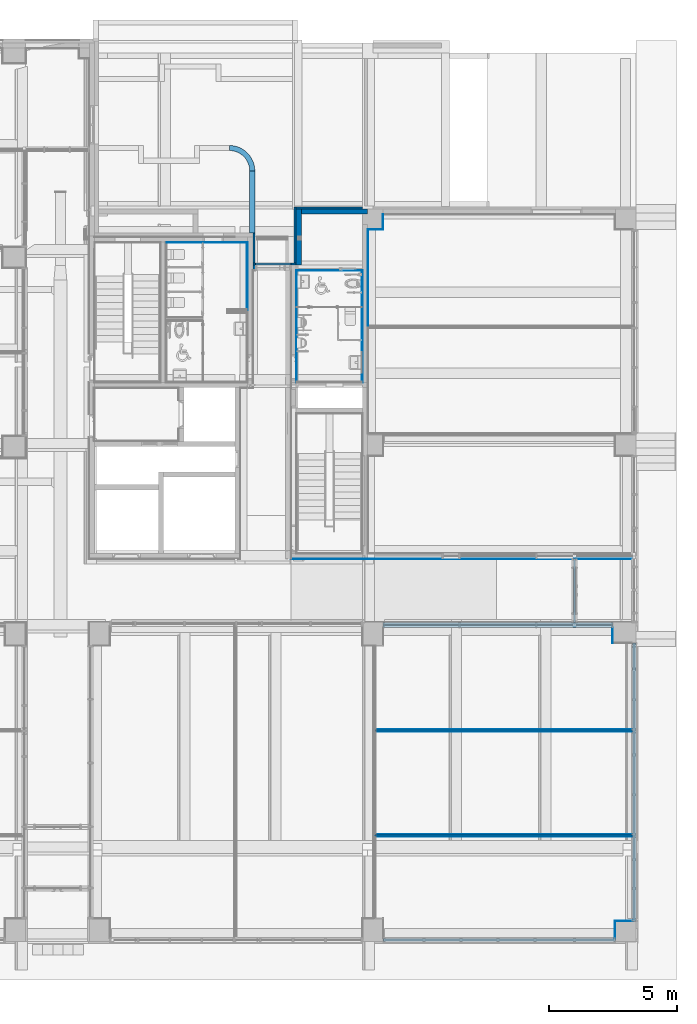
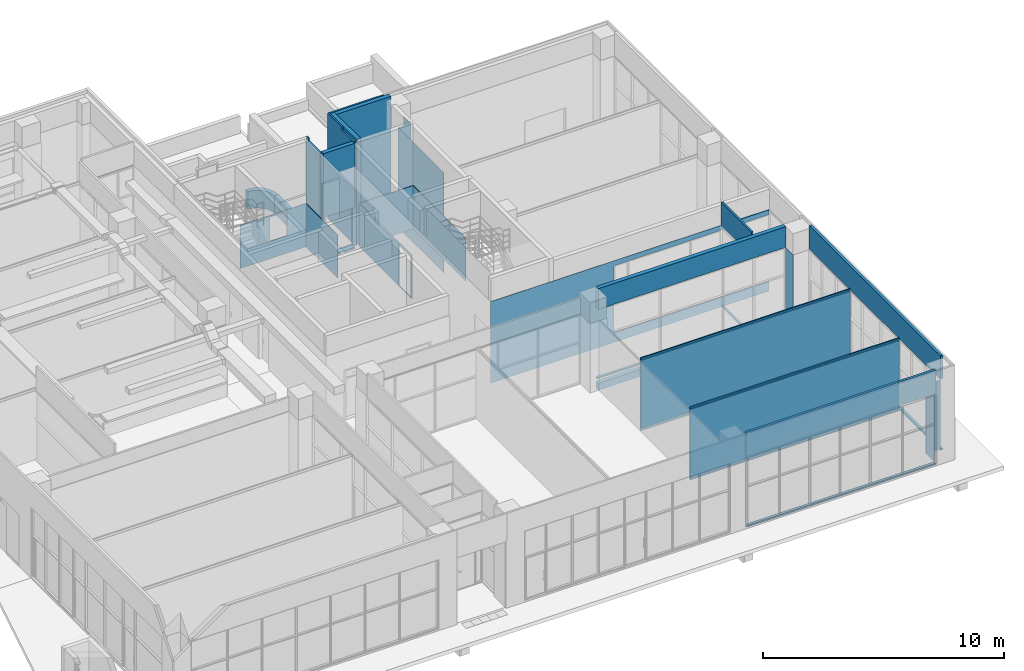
# One storey, part 51 of 100: 31 walls, 10 openings.
"""IFC2X3 building model written with IfcOpenShell, lengths in millimetres."""

from ifc_helpers import new_model, entity, si_unit, converted_unit, derived_unit, direction, frame, frame_2d, origin, origin_2d_with_axis, place, context, subcontext, project, spatial, polyline, circle_curve, parameter, trimmed, segment, composite_curve, rectangle, outline, extrude, clip, bounded_halfspace, material, layer, layer_set, layer_usage, type_object, element, save


model = new_model("IFC2X3")

# Units and contexts
model_context = context("Model", 3, precision=0.01, world=origin(), true_north=direction((6.123031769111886e-17, 1.0)))
body_context = subcontext(model_context, "Body", "Model", "MODEL_VIEW")
ifc_project = project(units=[si_unit("LENGTHUNIT", "METRE", prefix="MILLI"), si_unit("AREAUNIT", "SQUARE_METRE"), si_unit("VOLUMEUNIT", "CUBIC_METRE"), converted_unit("PLANEANGLEUNIT", "DEGREE", entity("IfcRatioMeasure", 0.017453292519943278), si_unit("PLANEANGLEUNIT", "RADIAN"), dimensions=[0, 0, 0, 0, 0, 0, 0]), si_unit("MASSUNIT", "GRAM", prefix="KILO"), derived_unit("MASSDENSITYUNIT", [(si_unit("MASSUNIT", "GRAM", prefix="KILO"), 1), (si_unit("LENGTHUNIT", "METRE"), -3)]), derived_unit("MOMENTOFINERTIAUNIT", [(si_unit("LENGTHUNIT", "METRE"), 4)]), si_unit("TIMEUNIT", "SECOND"), si_unit("FREQUENCYUNIT", "HERTZ"), si_unit("THERMODYNAMICTEMPERATUREUNIT", "DEGREE_CELSIUS"), derived_unit("THERMALTRANSMITTANCEUNIT", [(si_unit("MASSUNIT", "GRAM", prefix="KILO"), 1), (si_unit("THERMODYNAMICTEMPERATUREUNIT", "KELVIN"), -1), (si_unit("TIMEUNIT", "SECOND"), -3)]), derived_unit("VOLUMETRICFLOWRATEUNIT", [(si_unit("LENGTHUNIT", "METRE"), 3), (si_unit("TIMEUNIT", "SECOND"), -1)]), derived_unit("MASSFLOWRATEUNIT", [(si_unit("MASSUNIT", "GRAM", prefix="KILO"), 1), (si_unit("TIMEUNIT", "SECOND"), -1)]), derived_unit("ROTATIONALFREQUENCYUNIT", [(si_unit("TIMEUNIT", "SECOND"), -1)]), si_unit("ELECTRICCURRENTUNIT", "AMPERE"), si_unit("ELECTRICVOLTAGEUNIT", "VOLT"), si_unit("POWERUNIT", "WATT"), si_unit("FORCEUNIT", "NEWTON", prefix="KILO"), si_unit("ILLUMINANCEUNIT", "LUX"), si_unit("LUMINOUSFLUXUNIT", "LUMEN"), si_unit("LUMINOUSINTENSITYUNIT", "CANDELA"), derived_unit("USERDEFINED", [(si_unit("MASSUNIT", "GRAM", prefix="KILO"), -1), (si_unit("LENGTHUNIT", "METRE"), -2), (si_unit("TIMEUNIT", "SECOND"), 3), (si_unit("LUMINOUSFLUXUNIT", "LUMEN"), 1)]), derived_unit("SOUNDPOWERUNIT", [(si_unit("MASSUNIT", "GRAM", prefix="KILO"), 1), (si_unit("LENGTHUNIT", "METRE"), 2), (si_unit("TIMEUNIT", "SECOND"), -3)]), derived_unit("SOUNDPRESSUREUNIT", [(si_unit("MASSUNIT", "GRAM", prefix="KILO"), 1), (si_unit("LENGTHUNIT", "METRE"), -1), (si_unit("TIMEUNIT", "SECOND"), -2)]), derived_unit("LINEARVELOCITYUNIT", [(si_unit("LENGTHUNIT", "METRE"), 1), (si_unit("TIMEUNIT", "SECOND"), -1)]), si_unit("PRESSUREUNIT", "PASCAL"), derived_unit("USERDEFINED", [(si_unit("LENGTHUNIT", "METRE"), -2), (si_unit("MASSUNIT", "GRAM", prefix="KILO"), 1), (si_unit("TIMEUNIT", "SECOND"), -2)]), derived_unit("LINEARFORCEUNIT", [(si_unit("MASSUNIT", "GRAM", prefix="KILO"), 1), (si_unit("LENGTHUNIT", "METRE"), 1), (si_unit("TIMEUNIT", "SECOND"), -2), (si_unit("LENGTHUNIT", "METRE"), -1)]), derived_unit("PLANARFORCEUNIT", [(si_unit("MASSUNIT", "GRAM", prefix="KILO"), 1), (si_unit("LENGTHUNIT", "METRE"), 1), (si_unit("TIMEUNIT", "SECOND"), -2), (si_unit("LENGTHUNIT", "METRE"), -2)])], contexts=[model_context])

# Site, building, storey
site_placement = place(None, frame((-14167.972527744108, -657.2125860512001, 0.0)))
site = spatial("IfcSite", under=ifc_project, at=site_placement, Name="Default", CompositionType="ELEMENT")
building_placement = place(site_placement, origin())
building = spatial("IfcBuilding", under=site, at=building_placement, Name="Sample Building", CompositionType="ELEMENT")
storey_placement = place(building_placement, origin())
storey = spatial("IfcBuildingStorey", under=building, at=storey_placement, Name="지상 1층", CompositionType="ELEMENT", Elevation=0.0)

# Walls
ifc_material_1 = material(Name="KBIMS-콘크리트")
ifc_layer_1 = layer(ifc_material_1, 200.0)
ifc_layer_set_1 = layer_set([ifc_layer_1], Name="기본 벽:WA111-철근콘크리트구조 벽 200mm_CW1")
ifc_layer_usage_1 = layer_usage(ifc_layer_set_1, "AXIS2", "NEGATIVE", 100.0)
wall_type_1 = type_object("IfcWallType", Name="기본 벽:WA111-철근콘크리트구조 벽 200mm_CW1", PredefinedType="STANDARD", material=ifc_layer_set_1)
wall_1_placement = place(storey_placement, frame((38267.97249112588, 27057.21229514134, -550.0), z_axis=(0.0, 0.0, 1.0), x_axis=(0.0, 1.0, 0.0)))
element("IfcWallStandardCase", 1, at=wall_1_placement, inside=storey, type_object=wall_type_1, material=ifc_layer_usage_1, Name="기본 벽:WA111-철근콘크리트구조 벽 200mm_CW1", ObjectType="기본 벽:WA111-철근콘크리트구조 벽 200mm_CW1", context=body_context, shape_type="SweptSolid", body=[
    extrude(rectangle(XDim=2200.000012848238, YDim=200.00000000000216, at=frame_2d((1100.000006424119, -2.1671553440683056e-12), x_axis=(-1.0, 0.0))), origin(), (0.0, 0.0, 1.0), 5350.000000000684),
])
ifc_layer_usage_2 = layer_usage(ifc_layer_set_1, "AXIS2", "NEGATIVE", 100.0)
wall_2_placement = place(storey_placement, frame((38367.97249112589, 29157.21230798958, -550.0)))
element("IfcWallStandardCase", 2, at=wall_2_placement, inside=storey, type_object=wall_type_1, material=ifc_layer_usage_2, Name="기본 벽:WA111-철근콘크리트구조 벽 200mm_CW1", ObjectType="기본 벽:WA111-철근콘크리트구조 벽 200mm_CW1", context=body_context, shape_type="SweptSolid", body=[
    extrude(rectangle(XDim=2599.99130702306, YDim=199.99999999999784, at=frame_2d((1299.99565351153, 0.0), x_axis=(-1.0, 0.0))), origin(), (0.0, 0.0, 1.0), 5350.000000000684),
])
ifc_layer_usage_3 = layer_usage(ifc_layer_set_1, "AXIS2", "NEGATIVE", 100.0)
wall_3_placement = place(storey_placement, frame((36447.963798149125, 30742.5429300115, -550.0), z_axis=(0.0, 0.0, 1.0), x_axis=(0.0, -1.0, 0.0)))
element("IfcWallStandardCase", 3, at=wall_3_placement, inside=storey, type_object=wall_type_1, material=ifc_layer_usage_3, Name="기본 벽:WA111-철근콘크리트구조 벽 200mm_CW1", ObjectType="기본 벽:WA111-철근콘크리트구조 벽 200mm_CW1", context=body_context, shape_type="SweptSolid", body=[
    extrude(rectangle(XDim=2435.3306220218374, YDim=200.00000000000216, at=frame_2d((1217.6653110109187, -2.1671553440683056e-12), x_axis=(-1.0, 0.0))), origin(), (0.0, 0.0, 1.0), 900.0000000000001),
])
ifc_layer_usage_4 = layer_usage(ifc_layer_set_1, "AXIS2", "POSITIVE", -100.0)
wall_4_placement = place(storey_placement, frame((35547.96379814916, 31642.5429300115, -550.0), z_axis=(0.0, 0.0, 1.0), x_axis=(0.0, 1.0, 0.0)))
element("IfcWallStandardCase", 4, at=wall_4_placement, inside=storey, type_object=wall_type_1, material=ifc_layer_usage_4, Name="기본 벽:WA111-철근콘크리트구조 벽 200mm_CW1", ObjectType="기본 벽:WA111-철근콘크리트구조 벽 200mm_CW1", context=body_context, shape_type="SweptSolid", body=[
    extrude(outline(composite_curve([segment(trimmed(circle_curve(frame_2d((-900.0, 0.0), x_axis=(1.0, 0.0)), 1000.0000000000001), [parameter(269.99999999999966)], [parameter(359.9999999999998)], True, "PARAMETER"), True, "CONTINUOUS"), segment(polyline([(100.0, 0.0), (-100.0, 0.0)]), True, "CONTINUOUS"), segment(trimmed(circle_curve(frame_2d((-900.0, 0.0), x_axis=(1.0, 0.0)), 800.0), [parameter(269.9999999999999)], [parameter(0.0)], True, "PARAMETER"), False, "CONTINUOUS"), segment(polyline([(-900.0, -800.0), (-900.0, -1000.0)]), True, "CONTINUOUS")], self_intersect=False)), origin(), (0.0, 0.0, 1.0), 900.0000000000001),
])
wall_5_placement = place(storey_placement, frame((41567.955135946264, 12957.212383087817, -500.0)))
element("IfcWall", 5, at=wall_5_placement, inside=storey, type_object=wall_type_1, Name="기본 벽:WA111-철근콘크리트구조 벽 200mm_CW1", ObjectType="기본 벽:WA111-철근콘크리트구조 벽 200mm_CW1", context=body_context, shape_type="SweptSolid", body=[
    extrude(rectangle(XDim=200.00000000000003, YDim=9000.000000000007, at=frame_2d((39.9999999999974, -641.3628837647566), x_axis=(1.0, 0.0))), frame((3858.63711623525, -40.0, 0.0), z_axis=(0.0, 0.0, 1.0), x_axis=(0.0, 1.0, 0.0)), (0.0, 0.0, 1.0), 350.0),
    extrude(rectangle(XDim=200.0, YDim=9000.000000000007, at=frame_2d((0.0, -4.547473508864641e-12), x_axis=(1.0, 0.0))), frame((4500.0, 0.0, 4100.0), z_axis=(0.0, 0.0, 1.0), x_axis=(0.0, 1.0, 0.0)), (0.0, 0.0, 1.0), 1050.000000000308),
    extrude(rectangle(XDim=100.00027806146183, YDim=9000.000000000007, at=frame_2d((-6.494360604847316e-12, 4.547473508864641e-12), x_axis=(1.0, 0.0))), frame((4500.0, 49.999860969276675, 500.0), z_axis=(0.0, 0.0, 1.0), x_axis=(0.0, -1.0, 0.0)), (0.0, 0.0, 1.0), 80.00000000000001),
])

# Wall, opening
ifc_layer_usage_5 = layer_usage(ifc_layer_set_1, "AXIS2", "NEGATIVE", 100.0)
wall_6_placement = place(storey_placement, frame((37967.96379814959, 26957.212295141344, -550.0), z_axis=(0.0, 0.0, 1.0), x_axis=(-1.0, 0.0, 0.0)))
wall_6 = element("IfcWallStandardCase", 6, at=wall_6_placement, inside=storey, type_object=wall_type_1, material=ifc_layer_usage_5, Name="기본 벽:WA111-철근콘크리트구조 벽 200mm_CW1", ObjectType="기본 벽:WA111-철근콘크리트구조 벽 200mm_CW1", context=body_context, shape_type="SweptSolid", body=[
    extrude(rectangle(XDim=1500.000000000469, YDim=200.00000000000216, at=frame_2d((750.0000000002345, -2.1671553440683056e-12), x_axis=(-1.0, 0.0))), origin(), (0.0, 0.0, 1.0), 5350.000000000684),
])
opening_1_placement = place(wall_6_placement, origin())
element("IfcOpeningElement", 7, at=opening_1_placement, cuts=wall_6, Name="기본 벽:WA111-철근콘크리트구조 벽 200mm_CW1", ObjectType="Opening", context=body_context, shape_type="SweptSolid", body=[
    extrude(rectangle(XDim=2020.000000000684, YDim=1399.9913070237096, at=frame_2d((2.1600499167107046e-12, 0.0), x_axis=(0.0, 1.0))), frame((699.995653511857, -252.40000000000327, 1090.0), z_axis=(0.0, 1.0, 0.0), x_axis=(-1.0, 0.0, 0.0)), (0.0, 0.0, 1.0), 504.80000000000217),
])

ifc_material_2 = material(Name="KBIMS-화강석 잔다듬")
ifc_layer_2 = layer(ifc_material_2, 80.0)
ifc_layer_set_2 = layer_set([ifc_layer_2], Name="기본 벽:WA313-화강석잔다듬 벽 (30, 건식50) 80mm")
ifc_layer_usage_6 = layer_usage(ifc_layer_set_2, "AXIS2", "POSITIVE", -40.0)
wall_type_2 = type_object("IfcWallType", Name="기본 벽:WA313-화강석잔다듬 벽 (30, 건식50) 80mm", PredefinedType="STANDARD", material=ifc_layer_set_2)
wall_7_placement = place(storey_placement, frame((38167.972491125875, 27097.21229514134, -550.0), z_axis=(0.0, 0.0, 1.0), x_axis=(-1.0, 0.0, 0.0)))
wall_7 = element("IfcWallStandardCase", 8, at=wall_7_placement, inside=storey, type_object=wall_type_2, material=ifc_layer_usage_6, Name="기본 벽:WA313-화강석잔다듬 벽 (30, 건식50) 80mm", ObjectType="기본 벽:WA313-화강석잔다듬 벽 (30, 건식50) 80mm", context=body_context, shape_type="Clipping", body=[
    clip(extrude(rectangle(XDim=1700.0086929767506, YDim=79.99999999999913, at=frame_2d((850.0043464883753, 5.115907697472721e-13), x_axis=(-1.0, 0.0))), origin(), (0.0, 0.0, 1.0), 5200.000000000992), bounded_halfspace(frame((0.0, -40.0, 5200.0), z_axis=(0.0, 0.0, -1.0), x_axis=(-1.0, 0.0, 0.0)), True, frame((0.0, -40.0, 5200.0), z_axis=(0.0, 0.0, -1.0), x_axis=(-1.0, 0.0, 0.0)), polyline([(0.0, 0.0), (0.0, 24384.0), (-518162.6496193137, 24384.0), (-518162.64961931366, -1.6329636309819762e-09), (-493778.64961931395, -1.5549971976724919e-09), (-24384.0, 0.0), (0.0, 0.0)]))),
])
opening_2_placement = place(wall_7_placement, origin())
element("IfcOpeningElement", 9, at=opening_2_placement, cuts=wall_7, Name="기본 벽:WA313-화강석잔다듬 벽 (30, 건식50) 80mm", ObjectType="Opening", context=body_context, shape_type="SweptSolid", body=[
    extrude(rectangle(XDim=2020.000000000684, YDim=1399.9913070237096, at=frame_2d((2.1600499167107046e-12, 0.0), x_axis=(0.0, 1.0))), frame((900.0043464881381, -192.39999999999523, 1090.0), z_axis=(0.0, 1.0, 0.0), x_axis=(-1.0, 0.0, 0.0)), (0.0, 0.0, 1.0), 384.79999999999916),
])

# Walls
ifc_layer_usage_7 = layer_usage(ifc_layer_set_2, "AXIS2", "POSITIVE", -40.0)
wall_8_placement = place(storey_placement, frame((36507.963798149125, 27137.212295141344, -550.0), z_axis=(0.0, 0.0, 1.0), x_axis=(0.0, 1.0, 0.0)))
element("IfcWallStandardCase", 10, at=wall_8_placement, inside=storey, type_object=wall_type_2, material=ifc_layer_usage_7, Name="기본 벽:WA313-화강석잔다듬 벽 (30, 건식50) 80mm", ObjectType="기본 벽:WA313-화강석잔다듬 벽 (30, 건식50) 80mm", context=body_context, shape_type="Clipping", body=[
    clip(clip(extrude(rectangle(XDim=1170.0000128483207, YDim=79.99999999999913, at=frame_2d((585.0000064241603, 0.0), x_axis=(-1.0, 0.0))), origin(), (0.0, 0.0, 1.0), 5350.000000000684), bounded_halfspace(frame((1019.9998220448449, -40.0, 5200.0), z_axis=(0.0, 0.0, -1.0), x_axis=(0.0, -1.0, 0.0)), True, frame((1019.9998220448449, -40.0, 5200.0), z_axis=(0.0, 0.0, -1.0), x_axis=(0.0, -1.0, 0.0)), polyline([(0.0, 0.0), (0.0, 310895.9457592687), (-24384.0, 310895.9457592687), (-24384.0, 0.0), (0.0, 0.0)]))), bounded_halfspace(frame((1019.9998220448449, 40.0, 5200.0), z_axis=(1.0, 0.0, 0.0), x_axis=(0.0, 0.0, 1.0)), True, frame((1019.9998220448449, 40.0, 5200.0), z_axis=(1.0, 0.0, 0.0), x_axis=(0.0, 0.0, 1.0)), polyline([(0.0, 0.0), (45720.0, 0.0), (45720.0, 24384.0), (0.0, 24384.0), (0.0, 0.0)]))),
])
ifc_layer_usage_8 = layer_usage(ifc_layer_set_2, "AXIS2", "POSITIVE", -40.0)
wall_9_placement = place(storey_placement, frame((40762.96382893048, 29297.212295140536, 200.0), z_axis=(0.0, 0.0, 1.0), x_axis=(-1.0, 0.0, 0.0)))
element("IfcWallStandardCase", 11, at=wall_9_placement, inside=storey, type_object=wall_type_2, material=ifc_layer_usage_8, Name="기본 벽:WA313-화강석잔다듬 벽 (30, 건식50) 80mm", ObjectType="기본 벽:WA313-화강석잔다듬 벽 (30, 건식50) 80mm", context=body_context, shape_type="SweptSolid", body=[
    extrude(rectangle(XDim=2594.9913378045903, YDim=79.99999999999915, at=frame_2d((1297.4956689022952, 5.684341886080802e-14), x_axis=(-1.0, 0.0))), origin(), (0.0, 0.0, 1.0), 4600.000000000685),
])
ifc_layer_usage_9 = layer_usage(ifc_layer_set_2, "AXIS2", "POSITIVE", -40.0)
wall_10_placement = place(storey_placement, frame((38127.972491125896, 29337.21229514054, -550.0), z_axis=(0.0, 0.0, 1.0), x_axis=(0.0, -1.0, 0.0)))
element("IfcWallStandardCase", 12, at=wall_10_placement, inside=storey, type_object=wall_type_2, material=ifc_layer_usage_9, Name="기본 벽:WA313-화강석잔다듬 벽 (30, 건식50) 80mm", ObjectType="기본 벽:WA313-화강석잔다듬 벽 (30, 건식50) 80mm", context=body_context, shape_type="Clipping", body=[
    clip(clip(extrude(rectangle(XDim=2199.999999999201, YDim=79.99999999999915, at=frame_2d((1099.9999999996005, -4.1033842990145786e-12), x_axis=(-1.0, 0.0))), origin(), (0.0, 0.0, 1.0), 5350.000000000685), bounded_halfspace(frame((1180.0001779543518, 40.0, 5200.0), z_axis=(0.0, 0.0, -1.0), x_axis=(0.0, 1.0, 0.0)), True, frame((1180.0001779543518, 40.0, 5200.0), z_axis=(0.0, 0.0, -1.0), x_axis=(0.0, 1.0, 0.0)), polyline([(0.0, 0.0), (-2.635698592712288e-09, 310895.94575927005), (-24384.0, 310895.94575926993), (-24384.0, 0.0), (0.0, 0.0)]))), bounded_halfspace(frame((1180.0001779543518, -40.0, 5200.0), z_axis=(-1.0, 0.0, 0.0), x_axis=(0.0, 0.0, 1.0)), True, frame((1180.0001779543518, -40.0, 5200.0), z_axis=(-1.0, 0.0, 0.0), x_axis=(0.0, 0.0, 1.0)), polyline([(0.0, 0.0), (45720.0, 0.0), (45720.0, 24384.0), (0.0, 24384.0), (0.0, 0.0)]))),
])
ifc_material_3 = material(Name="KBIMS-DRY WALL")
ifc_layer_3 = layer(ifc_material_3, 12.5)
ifc_material_4 = material(Name="KBIMS-경량철골벽틀")
ifc_layer_4 = layer(ifc_material_4, 50.0)
ifc_layer_set_3 = layer_set([ifc_layer_3, ifc_layer_4], Name="기본 벽:WA731-DRY WALL(C50, GS12.5mm) (1겹한면, GW50mm) 62.5mm")
ifc_layer_usage_10 = layer_usage(ifc_layer_set_3, "AXIS2", "NEGATIVE", 31.250000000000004)
wall_type_3 = type_object("IfcWallType", Name="기본 벽:WA731-DRY WALL(C50, GS12.5mm) (1겹한면, GW50mm) 62.5mm", PredefinedType="STANDARD", material=ifc_layer_set_3)
wall_11_placement = place(storey_placement, frame((41267.97249113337, 8825.927619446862, 0.0)))
element("IfcWallStandardCase", 13, at=wall_11_placement, inside=storey, type_object=wall_type_3, material=ifc_layer_usage_10, Name="기본 벽:WA731-DRY WALL(C50, GS12.5mm) (1겹한면, GW50mm) 62.5mm", ObjectType="기본 벽:WA731-DRY WALL(C50, GS12.5mm) (1겹한면, GW50mm) 62.5mm", context=body_context, shape_type="SweptSolid", body=[
    extrude(rectangle(XDim=10037.49133779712, YDim=62.49999999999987, at=frame_2d((5018.74566889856, 1.4850343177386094e-12), x_axis=(-1.0, 0.0))), origin(), (0.0, 0.0, 1.0), 3700.000000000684),
])
ifc_layer_usage_11 = layer_usage(ifc_layer_set_3, "AXIS2", "NEGATIVE", 31.250000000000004)
wall_12_placement = place(storey_placement, frame((41267.97249113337, 4725.927617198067, 0.0)))
element("IfcWallStandardCase", 14, at=wall_12_placement, inside=storey, type_object=wall_type_3, material=ifc_layer_usage_11, Name="기본 벽:WA731-DRY WALL(C50, GS12.5mm) (1겹한면, GW50mm) 62.5mm", ObjectType="기본 벽:WA731-DRY WALL(C50, GS12.5mm) (1겹한면, GW50mm) 62.5mm", context=body_context, shape_type="SweptSolid", body=[
    extrude(rectangle(XDim=10037.49133779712, YDim=62.49999999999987, at=frame_2d((5018.74566889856, -1.3855583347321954e-13), x_axis=(-1.0, 0.0))), origin(), (0.0, 0.0, 1.0), 3700.000000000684),
])

# Wall, opening
ifc_material_5 = material(Name="KBIMS-시멘트 벽돌")
ifc_layer_5 = layer(ifc_material_5, 90.0)
ifc_layer_set_4 = layer_set([ifc_layer_5], Name="기본 벽:WA211-시멘트벽돌(일반) 벽 (0.5B) 90mm")
ifc_layer_usage_12 = layer_usage(ifc_layer_set_4, "AXIS2", "NEGATIVE", 45.0)
wall_type_4 = type_object("IfcWallType", Name="기본 벽:WA211-시멘트벽돌(일반) 벽 (0.5B) 90mm", PredefinedType="STANDARD", material=ifc_layer_set_4)
wall_13_placement = place(storey_placement, frame((49067.972491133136, 15557.212295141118, -500.0), z_axis=(0.0, 0.0, 1.0), x_axis=(0.0, -1.0, 0.0)))
wall_13 = element("IfcWallStandardCase", 15, at=wall_13_placement, inside=storey, type_object=wall_type_4, material=ifc_layer_usage_12, Name="기본 벽:WA211-시멘트벽돌(일반) 벽 (0.5B) 90mm", ObjectType="기본 벽:WA211-시멘트벽돌(일반) 벽 (0.5B) 90mm", context=body_context, shape_type="SweptSolid", body=[
    extrude(rectangle(XDim=2499.999912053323, YDim=89.99999999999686, at=frame_2d((1249.9999560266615, 0.0), x_axis=(-1.0, 0.0))), origin(), (0.0, 0.0, 1.0), 5300.000000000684),
])
opening_3_placement = place(wall_13_placement, origin())
element("IfcOpeningElement", 16, at=opening_3_placement, cuts=wall_13, Name="기본 벽:WA211-시멘트벽돌(일반) 벽 (0.5B) 90mm", ObjectType="Opening", context=body_context, shape_type="SweptSolid", body=[
    extrude(rectangle(XDim=4020.000000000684, YDim=2499.999912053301, at=frame_2d((-1.1368683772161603e-13, 1.0231815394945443e-12), x_axis=(1.0, 0.0))), frame((1249.9999560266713, -197.39999999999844, 2090.0), z_axis=(0.0, 1.0, 0.0), x_axis=(0.0, 0.0, 1.0)), (0.0, 0.0, 1.0), 394.7999999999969),
])

# Wall, openings
ifc_layer_6 = layer(ifc_material_1, 125.00000000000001)
ifc_layer_set_5 = layer_set([ifc_layer_6], Name="기본 벽:WA111-철근콘크리트구조 벽 125mm_W3")
ifc_layer_usage_13 = layer_usage(ifc_layer_set_5, "AXIS2", "NEGATIVE", 62.50000000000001)
wall_type_5 = type_object("IfcWallType", Name="기본 벽:WA111-철근콘크리트구조 벽 125mm_W3", PredefinedType="STANDARD", material=ifc_layer_set_5)
wall_14_placement = place(storey_placement, frame((41567.97249113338, 619.7122951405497, 0.0)))
wall_14 = element("IfcWallStandardCase", 17, at=wall_14_placement, inside=storey, type_object=wall_type_5, material=ifc_layer_usage_13, Name="기본 벽:WA111-철근콘크리트구조 벽 125mm_W3", ObjectType="기본 벽:WA111-철근콘크리트구조 벽 125mm_W3", context=body_context, shape_type="SweptSolid", body=[
    extrude(rectangle(XDim=9099.999994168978, YDim=125.00000000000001, at=frame_2d((4549.999997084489, 0.0), x_axis=(-1.0, 0.0))), origin(), (0.0, 0.0, 1.0), 4800.000000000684),
])
opening_4_placement = place(wall_14_placement, origin())
element("IfcOpeningElement", 18, at=opening_4_placement, cuts=wall_14, Name="기본 벽:WA111-철근콘크리트구조 벽 125mm_W3", ObjectType="Opening", context=body_context, shape_type="SweptSolid", body=[
    extrude(rectangle(XDim=3520.000000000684, YDim=9081.999994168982, at=frame_2d((-1.1368683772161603e-13, 4.092726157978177e-12), x_axis=(1.0, 0.0))), frame((4559.0, -214.9, 1840.0), z_axis=(0.0, 1.0, 0.0), x_axis=(0.0, 0.0, 1.0)), (0.0, 0.0, 1.0), 429.79999999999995),
])
opening_5_placement = place(wall_14_placement, origin())
element("IfcOpeningElement", 19, at=opening_5_placement, cuts=wall_14, Name="기본 벽:WA111-철근콘크리트구조 벽 125mm_W3", ObjectType="Opening", context=body_context, shape_type="SweptSolid", body=[
    extrude(rectangle(XDim=3520.000000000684, YDim=11900.000036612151, at=frame_2d((-1.1368683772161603e-13, 0.0), x_axis=(1.0, 0.0))), frame((-20750.0, -214.9, 1840.0), z_axis=(0.0, 1.0, 0.0), x_axis=(0.0, 0.0, 1.0)), (0.0, 0.0, 1.0), 429.79999999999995),
])
opening_6_placement = place(wall_14_placement, origin())
element("IfcOpeningElement", 20, at=opening_6_placement, cuts=wall_14, Name="기본 벽:WA111-철근콘크리트구조 벽 125mm_W3", ObjectType="Opening", context=body_context, shape_type="SweptSolid", body=[
    extrude(rectangle(XDim=3520.000000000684, YDim=9900.000000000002, at=frame_2d((-1.1368683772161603e-13, 0.0), x_axis=(1.0, 0.0))), frame((-5750.0, -214.9, 1840.0), z_axis=(0.0, 1.0, 0.0), x_axis=(0.0, 0.0, 1.0)), (0.0, 0.0, 1.0), 429.8),
])

# Wall, opening
ifc_layer_usage_14 = layer_usage(ifc_layer_set_5, "AXIS2", "NEGATIVE", 62.50000000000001)
wall_15_placement = place(storey_placement, frame((51405.463828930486, 1357.1944693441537, 0.0), z_axis=(0.0, 0.0, 1.0), x_axis=(0.0, 1.0, 0.0)))
wall_15 = element("IfcWallStandardCase", 21, at=wall_15_placement, inside=storey, type_object=wall_type_5, material=ifc_layer_usage_14, Name="기본 벽:WA111-철근콘크리트구조 벽 125mm_W3", ObjectType="기본 벽:WA111-철근콘크리트구조 벽 125mm_W3", context=body_context, shape_type="SweptSolid", body=[
    extrude(rectangle(XDim=10900.01856959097, YDim=124.99999999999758, at=frame_2d((5450.009284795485, 4.330757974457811e-12), x_axis=(-1.0, 0.0))), origin(), (0.0, 0.0, 1.0), 4800.000000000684),
])
opening_7_placement = place(wall_15_placement, origin())
element("IfcOpeningElement", 22, at=opening_7_placement, cuts=wall_15, Name="기본 벽:WA111-철근콘크리트구조 벽 125mm_W3", ObjectType="Opening", context=body_context, shape_type="SweptSolid", body=[
    extrude(rectangle(XDim=3520.000000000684, YDim=10900.01856959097, at=frame_2d((-1.1368683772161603e-13, 0.0), x_axis=(1.0, 0.0))), frame((5450.009284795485, -214.8999999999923, 1840.0), z_axis=(0.0, 1.0, 0.0), x_axis=(0.0, 0.0, 1.0)), (0.0, 0.0, 1.0), 429.79999999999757),
])

ifc_material_6 = material(Name="WA611-수성페인트 (내부) 벽 (3회)")
ifc_layer_7 = layer(ifc_material_6, 1.0)
ifc_material_7 = material(Name="WA551-시멘트모르타르 (내부) 벽 18mm")
ifc_layer_8 = layer(ifc_material_7, 16.0)
ifc_material_8 = material(Name="WA555-콘크리트면정리 벽 (내부)")
ifc_layer_9 = layer(ifc_material_8, 1.0)
ifc_layer_set_6 = layer_set([ifc_layer_7, ifc_layer_8, ifc_layer_9], Name="기본 벽:A1-32-06A-콘크리트면정리, 시멘트모르타르(미장용), 수성페인트(내부) (18mm)")
ifc_layer_usage_15 = layer_usage(ifc_layer_set_6, "AXIS2", "NEGATIVE", 9.000000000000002)
wall_type_6 = type_object("IfcWallType", Name="기본 벽:A1-32-06A-콘크리트면정리, 시멘트모르타르(미장용), 수성페인트(내부) (18mm)", PredefinedType="STANDARD", material=ifc_layer_set_6)
wall_16_placement = place(storey_placement, frame((51305.24730140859, 15548.19483702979, -500.0), z_axis=(0.0, 0.0, 1.0), x_axis=(-1.0, 0.0, 0.0)))
wall_16 = element("IfcWallStandardCase", 23, at=wall_16_placement, inside=storey, type_object=wall_type_6, material=ifc_layer_usage_15, Name="기본 벽:A1-32-06A-콘크리트면정리, 시멘트모르타르(미장용), 수성페인트(내부) (18mm)", ObjectType="기본 벽:A1-32-06A-콘크리트면정리, 시멘트모르타르(미장용), 수성페인트(내부) (18mm)", context=body_context, shape_type="SweptSolid", body=[
    extrude(rectangle(XDim=13355.283503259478, YDim=18.00000000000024, at=frame_2d((6677.641751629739, 3.561595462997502e-13), x_axis=(-1.0, 0.0))), origin(), (0.0, 0.0, 1.0), 4130.0),
])
opening_8_placement = place(wall_16_placement, origin())
element("IfcOpeningElement", 24, at=opening_8_placement, cuts=wall_16, Name="기본 벽:A1-32-06A-콘크리트면정리, 시멘트모르타르(미장용), 수성페인트(내부) (18mm)", ObjectType="Opening", context=body_context, shape_type="SweptSolid", body=[
    extrude(rectangle(XDim=3379.999999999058, YDim=7487.491337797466, at=origin_2d_with_axis()), frame((3693.5291413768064, -161.40000000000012, 2190.0), z_axis=(0.0, 1.0, 0.0), x_axis=(0.0, 0.0, 1.0)), (0.0, 0.0, 1.0), 322.80000000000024),
])

# Walls
ifc_layer_usage_16 = layer_usage(ifc_layer_set_6, "AXIS2", "POSITIVE", -9.000000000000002)
wall_17_placement = place(storey_placement, frame((50558.97248530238, 12848.177621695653, 80.0), z_axis=(0.0, 0.0, 1.0), x_axis=(0.0, -1.0, 0.0)))
element("IfcWallStandardCase", 25, at=wall_17_placement, inside=storey, type_object=wall_type_6, material=ifc_layer_usage_16, Name="기본 벽:A1-32-06A-콘크리트면정리, 시멘트모르타르(미장용), 수성페인트(내부) (18mm)", ObjectType="기본 벽:A1-32-06A-콘크리트면정리, 시멘트모르타르(미장용), 수성페인트(내부) (18mm)", context=body_context, shape_type="SweptSolid", body=[
    extrude(rectangle(XDim=608.9648918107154, YDim=17.999999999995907, at=frame_2d((304.4824459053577, 0.0), x_axis=(-1.0, 0.0))), origin(), (0.0, 0.0, 1.0), 3500.0000000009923),
])
ifc_layer_usage_17 = layer_usage(ifc_layer_set_6, "AXIS2", "POSITIVE", -9.000000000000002)
wall_18_placement = place(storey_placement, frame((51305.46382893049, 8866.177619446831, 80.0), z_axis=(0.0, 0.0, 1.0), x_axis=(-1.0, 0.0, 0.0)))
element("IfcWallStandardCase", 26, at=wall_18_placement, inside=storey, type_object=wall_type_6, material=ifc_layer_usage_17, Name="기본 벽:A1-32-06A-콘크리트면정리, 시멘트모르타르(미장용), 수성페인트(내부) (18mm)", ObjectType="기본 벽:A1-32-06A-콘크리트면정리, 시멘트모르타르(미장용), 수성페인트(내부) (18mm)", context=body_context, shape_type="SweptSolid", body=[
    extrude(rectangle(XDim=10019.491337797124, YDim=18.00000000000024, at=frame_2d((5009.745668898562, -7.549516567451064e-14), x_axis=(-1.0, 0.0))), origin(), (0.0, 0.0, 1.0), 3500.0000000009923),
])
ifc_layer_usage_18 = layer_usage(ifc_layer_set_6, "AXIS2", "POSITIVE", -9.000000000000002)
wall_19_placement = place(storey_placement, frame((41267.97249113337, 8785.677619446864, 80.0)))
element("IfcWallStandardCase", 27, at=wall_19_placement, inside=storey, type_object=wall_type_6, material=ifc_layer_usage_18, Name="기본 벽:A1-32-06A-콘크리트면정리, 시멘트모르타르(미장용), 수성페인트(내부) (18mm)", ObjectType="기본 벽:A1-32-06A-콘크리트면정리, 시멘트모르타르(미장용), 수성페인트(내부) (18mm)", context=body_context, shape_type="SweptSolid", body=[
    extrude(rectangle(XDim=10040.79808087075, YDim=18.000000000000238, at=frame_2d((5020.399040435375, -5.5067062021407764e-14), x_axis=(-1.0, 0.0))), origin(), (0.0, 0.0, 1.0), 3500.0000000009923),
])
ifc_layer_usage_19 = layer_usage(ifc_layer_set_6, "AXIS2", "POSITIVE", -9.000000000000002)
wall_20_placement = place(storey_placement, frame((51305.46382893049, 4765.177617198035, 80.0), z_axis=(0.0, 0.0, 1.0), x_axis=(-1.0, 0.0, 0.0)))
element("IfcWallStandardCase", 28, at=wall_20_placement, inside=storey, type_object=wall_type_6, material=ifc_layer_usage_19, Name="기본 벽:A1-32-06A-콘크리트면정리, 시멘트모르타르(미장용), 수성페인트(내부) (18mm)", ObjectType="기본 벽:A1-32-06A-콘크리트면정리, 시멘트모르타르(미장용), 수성페인트(내부) (18mm)", context=body_context, shape_type="SweptSolid", body=[
    extrude(rectangle(XDim=10037.49133779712, YDim=18.00000000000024, at=frame_2d((5018.74566889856, -4.618527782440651e-14), x_axis=(-1.0, 0.0))), origin(), (0.0, 0.0, 1.0), 3500.0000000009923),
])
ifc_layer_usage_20 = layer_usage(ifc_layer_set_6, "AXIS2", "POSITIVE", -9.000000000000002)
wall_21_placement = place(storey_placement, frame((41267.97249113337, 4685.677617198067, 80.0)))
element("IfcWallStandardCase", 29, at=wall_21_placement, inside=storey, type_object=wall_type_6, material=ifc_layer_usage_20, Name="기본 벽:A1-32-06A-콘크리트면정리, 시멘트모르타르(미장용), 수성페인트(내부) (18mm)", ObjectType="기본 벽:A1-32-06A-콘크리트면정리, 시멘트모르타르(미장용), 수성페인트(내부) (18mm)", context=body_context, shape_type="SweptSolid", body=[
    extrude(rectangle(XDim=10037.49133779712, YDim=18.00000000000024, at=frame_2d((5018.74566889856, -6.039613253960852e-14), x_axis=(-1.0, 0.0))), origin(), (0.0, 0.0, 1.0), 3500.0000000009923),
])
ifc_layer_usage_21 = layer_usage(ifc_layer_set_6, "AXIS2", "POSITIVE", -9.000000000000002)
wall_22_placement = place(storey_placement, frame((51342.96382893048, 1366.1944693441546, 80.0), z_axis=(0.0, 0.0, 1.0), x_axis=(-1.0, 0.0, 0.0)))
element("IfcWallStandardCase", 30, at=wall_22_placement, inside=storey, type_object=wall_type_6, material=ifc_layer_usage_21, Name="기본 벽:A1-32-06A-콘크리트면정리, 시멘트모르타르(미장용), 수성페인트(내부) (18mm)", ObjectType="기본 벽:A1-32-06A-콘크리트면정리, 시멘트모르타르(미장용), 수성페인트(내부) (18mm)", context=body_context, shape_type="SweptSolid", body=[
    extrude(rectangle(XDim=692.9913436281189, YDim=17.99999999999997, at=frame_2d((346.49567181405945, 1.7852386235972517e-13), x_axis=(-1.0, 0.0))), origin(), (0.0, 0.0, 1.0), 3500.0000000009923),
])
ifc_layer_usage_22 = layer_usage(ifc_layer_set_6, "AXIS2", "POSITIVE", -9.000000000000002)
wall_23_placement = place(storey_placement, frame((50658.97248530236, 1357.1944693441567, 80.0), z_axis=(0.0, 0.0, 1.0), x_axis=(0.0, -1.0, 0.0)))
element("IfcWallStandardCase", 31, at=wall_23_placement, inside=storey, type_object=wall_type_6, material=ifc_layer_usage_22, Name="기본 벽:A1-32-06A-콘크리트면정리, 시멘트모르타르(미장용), 수성페인트(내부) (18mm)", ObjectType="기본 벽:A1-32-06A-콘크리트면정리, 시멘트모르타르(미장용), 수성페인트(내부) (18mm)", context=body_context, shape_type="SweptSolid", body=[
    extrude(rectangle(XDim=674.9821742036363, YDim=17.999999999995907, at=frame_2d((337.49108710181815, 0.0), x_axis=(-1.0, 0.0))), origin(), (0.0, 0.0, 1.0), 3500.0000000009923),
])
ifc_layer_usage_23 = layer_usage(ifc_layer_set_6, "AXIS2", "POSITIVE", -9.000000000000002)
wall_24_placement = place(storey_placement, frame((40975.96379815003, 24674.177647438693, -1500.0), z_axis=(0.0, 0.0, 1.0), x_axis=(0.0, 1.0, 0.0)))
element("IfcWallStandardCase", 32, at=wall_24_placement, inside=storey, type_object=wall_type_6, material=ifc_layer_usage_23, Name="기본 벽:A1-32-06A-콘크리트면정리, 시멘트모르타르(미장용), 수성페인트(내부) (18mm)", ObjectType="기본 벽:A1-32-06A-콘크리트면정리, 시멘트모르타르(미장용), 수성페인트(내부) (18mm)", context=body_context, shape_type="SweptSolid", body=[
    extrude(rectangle(XDim=3783.017243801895, YDim=17.999999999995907, at=frame_2d((1891.5086219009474, 8.881784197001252e-16), x_axis=(-1.0, 0.0))), origin(), (0.0, 0.0, 1.0), 5080.000000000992),
])
ifc_layer_usage_24 = layer_usage(ifc_layer_set_6, "AXIS2", "POSITIVE", -9.000000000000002)
wall_25_placement = place(storey_placement, frame((40984.963798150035, 28448.19489124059, -1500.0)))
element("IfcWallStandardCase", 33, at=wall_25_placement, inside=storey, type_object=wall_type_6, material=ifc_layer_usage_24, Name="기본 벽:A1-32-06A-콘크리트면정리, 시멘트모르타르(미장용), 수성페인트(내부) (18mm)", ObjectType="기본 벽:A1-32-06A-콘크리트면정리, 시멘트모르타르(미장용), 수성페인트(내부) (18mm)", context=body_context, shape_type="SweptSolid", body=[
    extrude(rectangle(XDim=600.0086929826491, YDim=18.00000000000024, at=frame_2d((300.00434649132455, -2.1662671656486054e-12), x_axis=(-1.0, 0.0))), origin(), (0.0, 0.0, 1.0), 5080.000000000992),
])
ifc_layer_usage_25 = layer_usage(ifc_layer_set_6, "AXIS2", "POSITIVE", -9.000000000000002)
wall_26_placement = place(storey_placement, frame((41575.972491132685, 28457.19489124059, -1500.0), z_axis=(0.0, 0.0, 1.0), x_axis=(0.0, 1.0, 0.0)))
element("IfcWallStandardCase", 34, at=wall_26_placement, inside=storey, type_object=wall_type_6, material=ifc_layer_usage_25, Name="기본 벽:A1-32-06A-콘크리트면정리, 시멘트모르타르(미장용), 수성페인트(내부) (18mm)", ObjectType="기본 벽:A1-32-06A-콘크리트면정리, 시멘트모르타르(미장용), 수성페인트(내부) (18mm)", context=body_context, shape_type="SweptSolid", body=[
    extrude(rectangle(XDim=600.017403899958, YDim=17.999999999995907, at=frame_2d((300.008701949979, 0.0), x_axis=(-1.0, 0.0))), origin(), (0.0, 0.0, 1.0), 5080.000000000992),
])
ifc_material_9 = material(Name="WA352-도기질타일 벽 200x200")
ifc_layer_10 = layer(ifc_material_9, 8.0)
ifc_material_10 = material(Name="WA551-시멘트모르타르 (내부) 벽 22mm")
ifc_layer_11 = layer(ifc_material_10, 22.0)
ifc_layer_set_7 = layer_set([ifc_layer_10, ifc_layer_11], Name="기본 벽:A1-33-01B-시멘트 모르타르, 도기질타일 (30mm)")
ifc_layer_usage_26 = layer_usage(ifc_layer_set_7, "AXIS2", "POSITIVE", -15.0)
wall_type_7 = type_object("IfcWallType", Name="기본 벽:A1-33-01B-시멘트 모르타르, 도기질타일 (30mm)", PredefinedType="STANDARD", material=ifc_layer_set_7)
wall_27_placement = place(storey_placement, frame((40752.96379815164, 22457.277511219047, -500.0), z_axis=(0.0, 0.0, 1.0), x_axis=(0.0, 1.0, 0.0)))
element("IfcWallStandardCase", 35, at=wall_27_placement, inside=storey, type_object=wall_type_7, material=ifc_layer_usage_26, Name="기본 벽:A1-33-01B-시멘트 모르타르, 도기질타일 (30mm)", ObjectType="기본 벽:A1-33-01B-시멘트 모르타르, 도기질타일 (30mm)", context=body_context, shape_type="SweptSolid", body=[
    extrude(rectangle(XDim=4399.934783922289, YDim=30.000000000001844, at=frame_2d((2199.9673919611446, -3.2933655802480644e-12), x_axis=(-1.0, 0.0))), origin(), (0.0, 0.0, 1.0), 2200.0),
])

# Wall, opening
ifc_layer_usage_27 = layer_usage(ifc_layer_set_7, "AXIS2", "POSITIVE", -15.0)
wall_28_placement = place(storey_placement, frame((36237.96379815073, 27942.212307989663, -500.0), z_axis=(0.0, 0.0, 1.0), x_axis=(-1.0, 0.0, 0.0)))
wall_28 = element("IfcWallStandardCase", 36, at=wall_28_placement, inside=storey, type_object=wall_type_7, material=ifc_layer_usage_27, Name="기본 벽:A1-33-01B-시멘트 모르타르, 도기질타일 (30mm)", ObjectType="기본 벽:A1-33-01B-시멘트 모르타르, 도기질타일 (30mm)", context=body_context, shape_type="SweptSolid", body=[
    extrude(rectangle(XDim=3139.982570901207, YDim=30.000000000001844, at=frame_2d((1569.9912854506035, 0.0), x_axis=(-1.0, 0.0))), origin(), (0.0, 0.0, 1.0), 2200.0),
])
opening_9_placement = place(wall_28_placement, origin())
element("IfcOpeningElement", 37, at=opening_9_placement, cuts=wall_28, Name="기본 벽:A1-33-01B-시멘트 모르타르, 도기질타일 (30mm)", ObjectType="Opening", context=body_context, shape_type="SweptSolid", body=[
    extrude(rectangle(XDim=1200.0000000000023, YDim=799.9999999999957, at=frame_2d((5.684341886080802e-14, -2.1600499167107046e-12), x_axis=(1.0, 0.0))), frame((1319.9913070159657, -1739.0, 1500.0), z_axis=(0.0, 1.0, 0.0), x_axis=(0.0, 0.0, 1.0)), (0.0, 0.0, 1.0), 3048.0),
])

# Wall
ifc_layer_usage_28 = layer_usage(ifc_layer_set_7, "AXIS2", "NEGATIVE", 15.0)
wall_29_placement = place(storey_placement, frame((38197.96379814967, 26842.212295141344, -500.0)))
element("IfcWallStandardCase", 38, at=wall_29_placement, inside=storey, type_object=wall_type_7, material=ifc_layer_usage_28, Name="기본 벽:A1-33-01B-시멘트 모르타르, 도기질타일 (30mm)", ObjectType="기본 벽:A1-33-01B-시멘트 모르타르, 도기질타일 (30mm)", context=body_context, shape_type="SweptSolid", body=[
    extrude(rectangle(XDim=2540.0000000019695, YDim=30.000000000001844, at=frame_2d((1270.0000000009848, 0.0), x_axis=(-1.0, 0.0))), origin(), (0.0, 0.0, 1.0), 2200.0),
])

# Wall, opening
ifc_layer_usage_29 = layer_usage(ifc_layer_set_7, "AXIS2", "NEGATIVE", 15.0)
wall_30_placement = place(storey_placement, frame((38182.96379814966, 22457.212295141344, -500.0), z_axis=(0.0, 0.0, 1.0), x_axis=(0.0, 1.0, 0.0)))
wall_30 = element("IfcWallStandardCase", 39, at=wall_30_placement, inside=storey, type_object=wall_type_7, material=ifc_layer_usage_29, Name="기본 벽:A1-33-01B-시멘트 모르타르, 도기질타일 (30mm)", ObjectType="기본 벽:A1-33-01B-시멘트 모르타르, 도기질타일 (30mm)", context=body_context, shape_type="SweptSolid", body=[
    extrude(rectangle(XDim=4400.0, YDim=30.000000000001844, at=frame_2d((2200.0, -1.0382805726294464e-12), x_axis=(-1.0, 0.0))), origin(), (0.0, 0.0, 1.0), 2200.0),
])
opening_10_placement = place(wall_30_placement, origin())
element("IfcOpeningElement", 40, at=opening_10_placement, cuts=wall_30, Name="기본 벽:A1-33-01B-시멘트 모르타르, 도기질타일 (30mm)", ObjectType="Opening", context=body_context, shape_type="SweptSolid", body=[
    extrude(rectangle(XDim=2099.999999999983, YDim=999.999999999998, at=origin_2d_with_axis()), frame((606.4605229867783, -1309.0, 1080.0), z_axis=(0.0, 1.0, 0.0), x_axis=(0.0, 0.0, 1.0)), (0.0, 0.0, 1.0), 3048.0),
])

# Wall
ifc_layer_usage_30 = layer_usage(ifc_layer_set_7, "AXIS2", "POSITIVE", -15.0)
wall_31_placement = place(storey_placement, frame((36252.96379815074, 25297.212309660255, -500.0), z_axis=(0.0, 0.0, 1.0), x_axis=(0.0, 1.0, 0.0)))
element("IfcWallStandardCase", 41, at=wall_31_placement, inside=storey, type_object=wall_type_7, material=ifc_layer_usage_30, Name="기본 벽:A1-33-01B-시멘트 모르타르, 도기질타일 (30mm)", ObjectType="기본 벽:A1-33-01B-시멘트 모르타르, 도기질타일 (30mm)", context=body_context, shape_type="SweptSolid", body=[
    extrude(rectangle(XDim=2659.9999983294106, YDim=30.000000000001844, at=frame_2d((1329.9999991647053, 1.0533796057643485e-12), x_axis=(-1.0, 0.0))), origin(), (0.0, 0.0, 1.0), 2200.0),
])

save(model, "model.ifc")
